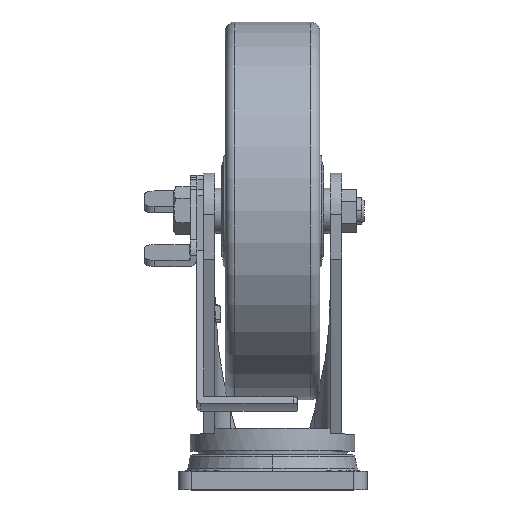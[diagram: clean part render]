
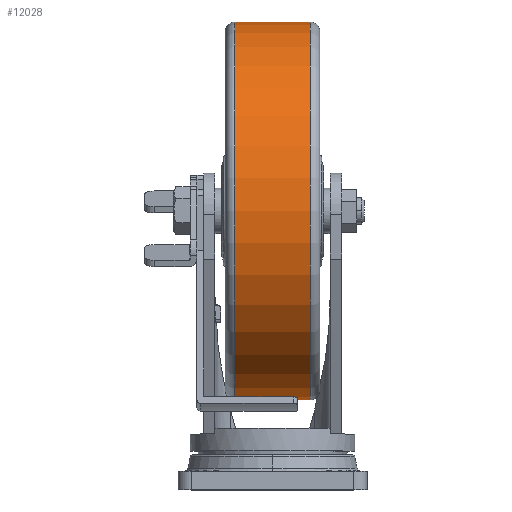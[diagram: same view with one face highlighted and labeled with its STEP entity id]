
A CAD part, top view. The second image highlights one B-rep face of the part: STEP entity #12028.
In plain terms, the highlighted cylindrical face has radius 100 mm (diameter 200 mm), a partial arc.
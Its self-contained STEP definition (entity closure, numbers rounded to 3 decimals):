
#9331=CARTESIAN_POINT('',(0.,0.,-20.));
#9332=DIRECTION('',(0.,0.,1.));
#9333=DIRECTION('',(0.,-1.,0.));
#9334=AXIS2_PLACEMENT_3D('',#9331,#9332,#9333);
#9346=DIRECTION('',(0.,0.,1.));
#9347=VECTOR('',#9346,40.);
#9348=CARTESIAN_POINT('',(0.,100.,-20.));
#9349=LINE('',#9348,#9347);
#9350=DIRECTION('',(0.,0.,1.));
#9351=VECTOR('',#9350,40.);
#9352=CARTESIAN_POINT('',(0.,-100.,-20.));
#9353=LINE('',#9352,#9351);
#9354=CARTESIAN_POINT('',(0.,0.,20.));
#9355=DIRECTION('',(0.,0.,-1.));
#9356=DIRECTION('',(0.,1.,0.));
#9357=AXIS2_PLACEMENT_3D('',#9354,#9355,#9356);
#10895=CARTESIAN_POINT('',(0.,-100.,-20.));
#10896=VERTEX_POINT('',#10895);
#10897=CARTESIAN_POINT('',(0.,100.,-20.));
#10898=VERTEX_POINT('',#10897);
#10899=CARTESIAN_POINT('',(0.,100.,20.));
#10900=VERTEX_POINT('',#10899);
#10901=CARTESIAN_POINT('',(0.,-100.,20.));
#10902=VERTEX_POINT('',#10901);
#12016=CARTESIAN_POINT('',(0.,0.,26.));
#12017=DIRECTION('',(0.,0.,1.));
#12018=DIRECTION('',(0.,-1.,0.));
#12019=AXIS2_PLACEMENT_3D('',#12016,#12017,#12018);
#12020=CYLINDRICAL_SURFACE('',#12019,100.);
#12021=ORIENTED_EDGE('',*,*,#11981,.F.);
#12022=ORIENTED_EDGE('',*,*,#12010,.T.);
#12024=ORIENTED_EDGE('',*,*,#12023,.F.);
#12025=ORIENTED_EDGE('',*,*,#12006,.F.);
#12026=EDGE_LOOP('',(#12021,#12022,#12024,#12025));
#12027=FACE_OUTER_BOUND('',#12026,.F.);
#9335=CIRCLE('',#9334,100.);
#9358=CIRCLE('',#9357,100.);
#11981=EDGE_CURVE('',#10896,#10898,#9335,.T.);
#12006=EDGE_CURVE('',#10898,#10900,#9349,.T.);
#12010=EDGE_CURVE('',#10896,#10902,#9353,.T.);
#12023=EDGE_CURVE('',#10900,#10902,#9358,.T.);
#12028=ADVANCED_FACE('',(#12027),#12020,.T.);
